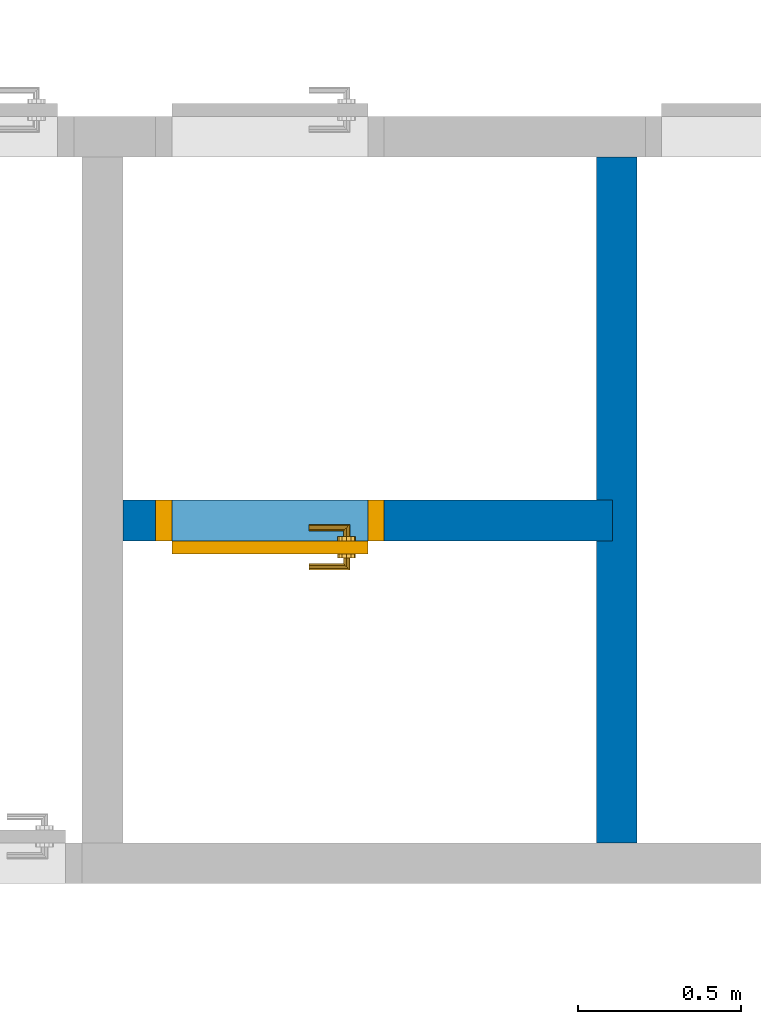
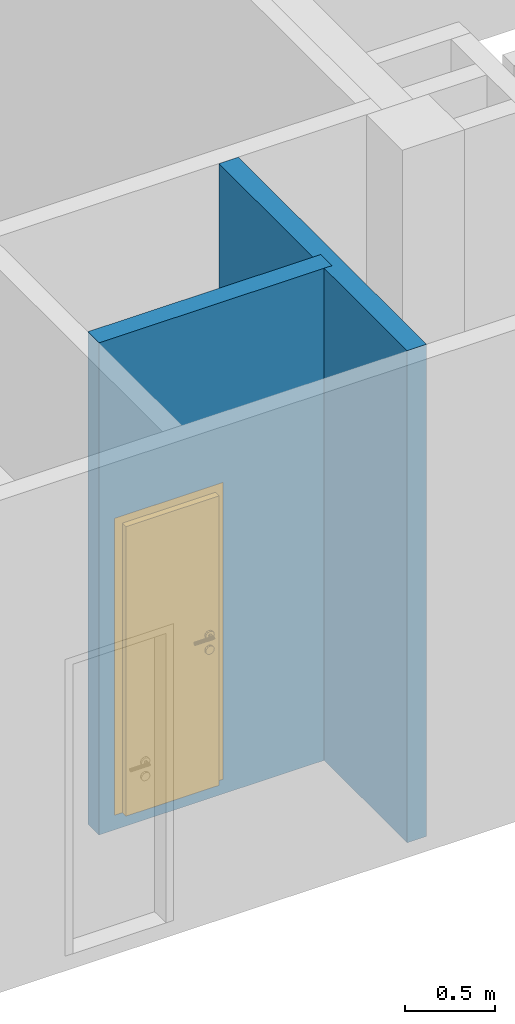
# One storey, part 15 of 37: 2 walls, 1 door, 1 opening.
"""IFC4 building model written with IfcOpenShell, lengths in metres."""

from ifc_helpers import new_model, entity, si_unit, converted_unit, derived_unit, frame, frame_2d, origin, origin_with_axes, place, context, subcontext, project, spatial, polyline, rectangle, outline, extrude, closed_shell, open_shell, surface_model, source, transform, mapped, material, layer, layer_set, layer_usage, type_object, element, fill, save


model = new_model("IFC4")

# Units and contexts
model_context = context("Model", 3, precision=1e-05, world=origin())
body_context = subcontext(model_context, "Body", "Model", "MODEL_VIEW")
ifc_project = project(units=[si_unit("LENGTHUNIT", "METRE"), si_unit("AREAUNIT", "SQUARE_METRE"), si_unit("VOLUMEUNIT", "CUBIC_METRE"), si_unit("MASSUNIT", "GRAM", prefix="KILO"), converted_unit("PLANEANGLEUNIT", "DEGREE", entity("IfcPlaneAngleMeasure", 0.0174532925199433), si_unit("PLANEANGLEUNIT", "RADIAN"), dimensions=[0, 0, 0, 0, 0, 0, 0]), derived_unit("THERMALTRANSMITTANCEUNIT", [(si_unit("POWERUNIT", "WATT"), 1), (si_unit("THERMODYNAMICTEMPERATUREUNIT", "KELVIN"), -1), (si_unit("LENGTHUNIT", "METRE"), -2)]), derived_unit("VOLUMETRICFLOWRATEUNIT", [(si_unit("LENGTHUNIT", "METRE"), 3), (converted_unit("TIMEUNIT", "hour", entity("IfcTimeMeasure", 3600.0), si_unit("TIMEUNIT", "SECOND"), dimensions=[0, 0, 1, 0, 0, 0, 0]), -1), (si_unit("LENGTHUNIT", "METRE"), -1)])], contexts=[model_context])

# Site, building, storey
site_placement = place(None, origin())
site = spatial("IfcSite", under=ifc_project, at=site_placement, Name="3. ASŘ", CompositionType="ELEMENT")
building_placement = place(site_placement, origin())
building = spatial("IfcBuilding", under=site, at=building_placement, Name="Pavilon B", CompositionType="ELEMENT")
storey_placement = place(building_placement, origin())
storey = spatial("IfcBuildingStorey", under=building, at=storey_placement, Name="Půdorys 1.NP", CompositionType="ELEMENT", Elevation=0.0)

# Wall, opening, door
ifc_material_1 = material(Name="ZDIVO Z CDm")
ifc_layer_1 = layer(ifc_material_1, 0.125)
ifc_layer_set_1 = layer_set([ifc_layer_1])
ifc_layer_usage_1 = layer_usage(ifc_layer_set_1, "AXIS2", "POSITIVE", 0.0)
wall_1_placement = place(storey_placement, frame((30.7, -22.45, -0.1), z_axis=(0.0, 0.0, 1.0), x_axis=(-1.0, 0.0, 0.0)))
wall_1 = element("IfcWall", 1, at=wall_1_placement, inside=storey, material=ifc_layer_usage_1, Name="ZDIVO Z CDm", context=body_context, shape_type="SweptSolid", body=[
    extrude(rectangle(XDim=1.5, YDim=0.125, at=frame_2d((0.75, 0.0625), x_axis=(1.0, 0.0))), origin_with_axes(), (0.0, 0.0, 1.0), 3.35),
])
opening_placement = place(wall_1_placement, frame((1.4, 0.125, 0.1), z_axis=(0.0, -1.0, 0.0), x_axis=(0.0, 0.0, 1.0)))
opening = element("IfcOpeningElement", 2, at=opening_placement, cuts=wall_1, Name="Dveřní otvor", ObjectType="Opening", context=body_context, shape_type="SweptSolid", body=[
    extrude(outline(polyline([(0.0, 0.7), (2.02, 0.7), (2.02, 0.0), (0.0, 0.0), (0.0, 0.7)])), origin_with_axes(), (0.0, 0.0, 1.0), 0.125),
])
door_type = type_object("IfcDoorType", Name="D101", OperationType="NOTDEFINED", ParameterTakesPrecedence=False, PredefinedType="DOOR")
shared_shape = source(origin_with_axes(), body_context, "Body", "SurfaceModel", [
    surface_model("IfcShellBasedSurfaceModel", [(0.0, 0.125, 2.02), (0.0, 0.125, -7.65404249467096e-18), (0.05, 0.125, -7.65404249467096e-18), (0.05, 0.125, 2.02), (0.0, 0.0, 7.65404249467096e-18), (0.0, 2.41584530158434e-16, 2.02), (0.05, 2.41584530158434e-16, 2.02), (0.05, 0.0, 7.65404249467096e-18)], [closed_shell([[[0, 1, 2, 3]], [[4, 5, 6, 7]], [[1, 0, 5, 4]], [[2, 1, 4, 7]], [[3, 2, 7, 6]], [[0, 3, 6, 5]]], orient=[[False], [False], [False], [False], [False], [False]])]),
    surface_model("IfcShellBasedSurfaceModel", [(0.65, 0.125, 2.02), (0.65, 0.125, -7.65404249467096e-18), (0.7, 0.125, -7.65404249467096e-18), (0.7, 0.125, 2.02), (0.65, 0.0, 7.65404249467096e-18), (0.65, 2.41584530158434e-16, 2.02), (0.7, 2.41584530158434e-16, 2.02), (0.7, 0.0, 7.65404249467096e-18)], [closed_shell([[[0, 1, 2, 3]], [[4, 5, 6, 7]], [[1, 0, 5, 4]], [[2, 1, 4, 7]], [[3, 2, 7, 6]], [[0, 3, 6, 5]]], orient=[[False], [False], [False], [False], [False], [False]])]),
    surface_model("IfcShellBasedSurfaceModel", [(0.05, 0.125, 2.02), (0.05, 0.125, 1.97), (0.65, 0.125, 1.97), (0.65, 0.125, 2.02), (0.05, 2.41584530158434e-16, 1.97), (0.05, 2.41584530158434e-16, 2.02), (0.65, 2.41584530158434e-16, 2.02), (0.65, 2.41584530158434e-16, 1.97)], [closed_shell([[[0, 1, 2, 3]], [[4, 5, 6, 7]], [[1, 0, 5, 4]], [[2, 1, 4, 7]], [[3, 2, 7, 6]], [[0, 3, 6, 5]]], orient=[[False], [False], [False], [False], [False], [False]])]),
    surface_model("IfcShellBasedSurfaceModel", [(0.05, 0.165, 1.97), (0.05, 0.165, -1.25526296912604e-17), (0.65, 0.165, -1.25526296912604e-17), (0.65, 0.165, 1.97), (0.05, 0.125, -7.65404249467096e-18), (0.05, 0.125, 1.97), (0.65, 0.125, 1.97), (0.65, 0.125, -7.65404249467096e-18)], [closed_shell([[[0, 1, 2, 3]], [[4, 5, 6, 7]], [[1, 0, 5, 4]], [[2, 1, 4, 7]], [[3, 2, 7, 6]], [[0, 3, 6, 5]]], orient=[[False], [False], [False], [False], [False], [False]])]),
    surface_model("IfcShellBasedSurfaceModel", [(0.608815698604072, 0.125, 0.93625), (0.6125, 0.125, 0.95), (0.608815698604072, 0.125, 0.96375), (0.59875, 0.125, 0.973815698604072), (0.585, 0.125, 0.9775), (0.57125, 0.125, 0.973815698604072), (0.561184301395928, 0.125, 0.96375), (0.5575, 0.125, 0.95), (0.561184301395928, 0.125, 0.93625), (0.57125, 0.125, 0.926184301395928), (0.585, 0.125, 0.9225), (0.59875, 0.125, 0.926184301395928), (0.6125, 0.1125, 0.95), (0.608815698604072, 0.1125, 0.93625), (0.59875, 0.1125, 0.926184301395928), (0.585, 0.1125, 0.9225), (0.57125, 0.1125, 0.926184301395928), (0.561184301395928, 0.1125, 0.93625), (0.5575, 0.1125, 0.95), (0.561184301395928, 0.1125, 0.96375), (0.57125, 0.1125, 0.973815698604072), (0.585, 0.1125, 0.9775), (0.59875, 0.1125, 0.973815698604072), (0.608815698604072, 0.1125, 0.96375)], [closed_shell([[[0, 1, 2, 3, 4, 5, 6, 7, 8, 9, 10, 11]], [[12, 13, 14, 15, 16, 17, 18, 19, 20, 21, 22, 23]], [[1, 0, 13, 12]], [[2, 1, 12, 23]], [[3, 2, 23, 22]], [[4, 3, 22, 21]], [[5, 4, 21, 20]], [[6, 5, 20, 19]], [[7, 6, 19, 18]], [[8, 7, 18, 17]], [[9, 8, 17, 16]], [[10, 9, 16, 15]], [[11, 10, 15, 14]], [[0, 11, 14, 13]]], orient=[[False], [False], [False], [False], [False], [False], [False], [False], [False], [False], [False], [False], [False], [False]])]),
    surface_model("IfcShellBasedSurfaceModel", [(0.608815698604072, 0.125, 1.03625), (0.6125, 0.125, 1.05), (0.608815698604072, 0.125, 1.06375), (0.59875, 0.125, 1.07381569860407), (0.585, 0.125, 1.0775), (0.57125, 0.125, 1.07381569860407), (0.561184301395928, 0.125, 1.06375), (0.5575, 0.125, 1.05), (0.561184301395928, 0.125, 1.03625), (0.57125, 0.125, 1.02618430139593), (0.585, 0.125, 1.0225), (0.59875, 0.125, 1.02618430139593), (0.6125, 0.1125, 1.05), (0.608815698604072, 0.1125, 1.03625), (0.59875, 0.1125, 1.02618430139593), (0.585, 0.1125, 1.0225), (0.57125, 0.1125, 1.02618430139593), (0.561184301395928, 0.1125, 1.03625), (0.5575, 0.1125, 1.05), (0.561184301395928, 0.1125, 1.06375), (0.57125, 0.1125, 1.07381569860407), (0.585, 0.1125, 1.0775), (0.59875, 0.1125, 1.07381569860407), (0.608815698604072, 0.1125, 1.06375)], [closed_shell([[[0, 1, 2, 3, 4, 5, 6, 7, 8, 9, 10, 11]], [[12, 13, 14, 15, 16, 17, 18, 19, 20, 21, 22, 23]], [[1, 0, 13, 12]], [[2, 1, 12, 23]], [[3, 2, 23, 22]], [[4, 3, 22, 21]], [[5, 4, 21, 20]], [[6, 5, 20, 19]], [[7, 6, 19, 18]], [[8, 7, 18, 17]], [[9, 8, 17, 16]], [[10, 9, 16, 15]], [[11, 10, 15, 14]], [[0, 11, 14, 13]]], orient=[[False], [False], [False], [False], [False], [False], [False], [False], [False], [False], [False], [False], [False], [False]])]),
    surface_model("IfcShellBasedSurfaceModel", [(0.585, 0.125, 1.06), (0.58, 0.125, 1.05866025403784), (0.576339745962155, 0.125, 1.055), (0.575, 0.125, 1.05), (0.576339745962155, 0.125, 1.045), (0.58, 0.125, 1.04133974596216), (0.585, 0.125, 1.04), (0.59, 0.125, 1.04133974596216), (0.593660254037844, 0.125, 1.045), (0.595, 0.125, 1.05), (0.593660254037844, 0.125, 1.055), (0.59, 0.125, 1.05866025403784), (0.59, 0.0800000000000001, 1.05866025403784), (0.585, 0.0850000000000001, 1.06), (0.593660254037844, 0.0763397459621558, 1.055), (0.595, 0.0750000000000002, 1.05), (0.593660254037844, 0.0763397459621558, 1.045), (0.59, 0.0800000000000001, 1.04133974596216), (0.585, 0.0850000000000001, 1.04), (0.58, 0.0900000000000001, 1.04133974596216), (0.576339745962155, 0.0936602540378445, 1.045), (0.575, 0.0950000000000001, 1.05), (0.576339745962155, 0.0936602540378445, 1.055), (0.58, 0.0900000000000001, 1.05866025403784), (0.47, 0.0800000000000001, 1.05866025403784), (0.47, 0.0850000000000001, 1.06), (0.47, 0.0763397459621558, 1.055), (0.47, 0.0750000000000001, 1.05), (0.47, 0.0763397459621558, 1.045), (0.47, 0.0800000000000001, 1.04133974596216), (0.47, 0.0850000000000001, 1.04), (0.47, 0.0900000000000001, 1.04133974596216), (0.47, 0.0936602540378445, 1.045), (0.47, 0.0950000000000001, 1.05), (0.47, 0.0936602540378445, 1.055), (0.47, 0.0900000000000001, 1.05866025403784)], [open_shell([[[0, 1, 2, 3, 4, 5, 6, 7, 8, 9, 10, 11]], [[0, 11, 12, 13]], [[11, 10, 14, 12]], [[10, 9, 15, 14]], [[9, 8, 16, 15]], [[8, 7, 17, 16]], [[7, 6, 18, 17]], [[6, 5, 19, 18]], [[5, 4, 20, 19]], [[4, 3, 21, 20]], [[3, 2, 22, 21]], [[2, 1, 23, 22]], [[1, 0, 13, 23]], [[13, 12, 24, 25]], [[12, 14, 26, 24]], [[14, 15, 27, 26]], [[15, 16, 28, 27]], [[16, 17, 29, 28]], [[17, 18, 30, 29]], [[18, 19, 31, 30]], [[19, 20, 32, 31]], [[20, 21, 33, 32]], [[21, 22, 34, 33]], [[22, 23, 35, 34]], [[23, 13, 25, 35]]], orient=[[False], [False], [False], [False], [False], [False], [False], [False], [False], [False], [False], [False], [False], [False], [False], [False], [False], [False], [False], [False], [False], [False], [False], [False], [False]])]),
    surface_model("IfcShellBasedSurfaceModel", [(0.608815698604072, 0.165, 0.93625), (0.59875, 0.165, 0.926184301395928), (0.585, 0.165, 0.9225), (0.57125, 0.165, 0.926184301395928), (0.561184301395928, 0.165, 0.93625), (0.5575, 0.165, 0.95), (0.561184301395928, 0.165, 0.96375), (0.57125, 0.165, 0.973815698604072), (0.585, 0.165, 0.9775), (0.59875, 0.165, 0.973815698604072), (0.608815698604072, 0.165, 0.96375), (0.6125, 0.165, 0.95), (0.6125, 0.1775, 0.95), (0.608815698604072, 0.1775, 0.96375), (0.59875, 0.1775, 0.973815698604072), (0.585, 0.1775, 0.9775), (0.57125, 0.1775, 0.973815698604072), (0.561184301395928, 0.1775, 0.96375), (0.5575, 0.1775, 0.95), (0.561184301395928, 0.1775, 0.93625), (0.57125, 0.1775, 0.926184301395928), (0.585, 0.1775, 0.9225), (0.59875, 0.1775, 0.926184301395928), (0.608815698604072, 0.1775, 0.93625)], [closed_shell([[[0, 1, 2, 3, 4, 5, 6, 7, 8, 9, 10, 11]], [[12, 13, 14, 15, 16, 17, 18, 19, 20, 21, 22, 23]], [[11, 12, 23, 0]], [[10, 13, 12, 11]], [[9, 14, 13, 10]], [[8, 15, 14, 9]], [[7, 16, 15, 8]], [[6, 17, 16, 7]], [[5, 18, 17, 6]], [[4, 19, 18, 5]], [[3, 20, 19, 4]], [[2, 21, 20, 3]], [[1, 22, 21, 2]], [[0, 23, 22, 1]]], orient=[[False], [False], [False], [False], [False], [False], [False], [False], [False], [False], [False], [False], [False], [False]])]),
    surface_model("IfcShellBasedSurfaceModel", [(0.608815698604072, 0.165, 1.03625), (0.59875, 0.165, 1.02618430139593), (0.585, 0.165, 1.0225), (0.57125, 0.165, 1.02618430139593), (0.561184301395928, 0.165, 1.03625), (0.5575, 0.165, 1.05), (0.561184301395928, 0.165, 1.06375), (0.57125, 0.165, 1.07381569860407), (0.585, 0.165, 1.0775), (0.59875, 0.165, 1.07381569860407), (0.608815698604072, 0.165, 1.06375), (0.6125, 0.165, 1.05), (0.6125, 0.1775, 1.05), (0.608815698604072, 0.1775, 1.06375), (0.59875, 0.1775, 1.07381569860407), (0.585, 0.1775, 1.0775), (0.57125, 0.1775, 1.07381569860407), (0.561184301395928, 0.1775, 1.06375), (0.5575, 0.1775, 1.05), (0.561184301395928, 0.1775, 1.03625), (0.57125, 0.1775, 1.02618430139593), (0.585, 0.1775, 1.0225), (0.59875, 0.1775, 1.02618430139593), (0.608815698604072, 0.1775, 1.03625)], [closed_shell([[[0, 1, 2, 3, 4, 5, 6, 7, 8, 9, 10, 11]], [[12, 13, 14, 15, 16, 17, 18, 19, 20, 21, 22, 23]], [[11, 12, 23, 0]], [[10, 13, 12, 11]], [[9, 14, 13, 10]], [[8, 15, 14, 9]], [[7, 16, 15, 8]], [[6, 17, 16, 7]], [[5, 18, 17, 6]], [[4, 19, 18, 5]], [[3, 20, 19, 4]], [[2, 21, 20, 3]], [[1, 22, 21, 2]], [[0, 23, 22, 1]]], orient=[[False], [False], [False], [False], [False], [False], [False], [False], [False], [False], [False], [False], [False], [False]])]),
    surface_model("IfcShellBasedSurfaceModel", [(0.585, 0.165, 1.06), (0.59, 0.165, 1.05866025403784), (0.593660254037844, 0.165, 1.055), (0.595, 0.165, 1.05), (0.593660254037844, 0.165, 1.045), (0.59, 0.165, 1.04133974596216), (0.585, 0.165, 1.04), (0.58, 0.165, 1.04133974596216), (0.576339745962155, 0.165, 1.045), (0.575, 0.165, 1.05), (0.576339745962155, 0.165, 1.055), (0.58, 0.165, 1.05866025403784), (0.585, 0.205, 1.06), (0.59, 0.21, 1.05866025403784), (0.593660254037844, 0.213660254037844, 1.055), (0.595, 0.215, 1.05), (0.593660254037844, 0.213660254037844, 1.045), (0.59, 0.21, 1.04133974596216), (0.585, 0.205, 1.04), (0.58, 0.2, 1.04133974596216), (0.576339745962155, 0.196339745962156, 1.045), (0.575, 0.195, 1.05), (0.576339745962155, 0.196339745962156, 1.055), (0.58, 0.2, 1.05866025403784), (0.47, 0.205, 1.06), (0.47, 0.21, 1.05866025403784), (0.47, 0.213660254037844, 1.055), (0.47, 0.215, 1.05), (0.47, 0.213660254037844, 1.045), (0.47, 0.21, 1.04133974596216), (0.47, 0.205, 1.04), (0.47, 0.2, 1.04133974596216), (0.47, 0.196339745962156, 1.045), (0.47, 0.195, 1.05), (0.47, 0.196339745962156, 1.055), (0.47, 0.2, 1.05866025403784)], [open_shell([[[0, 1, 2, 3, 4, 5, 6, 7, 8, 9, 10, 11]], [[0, 12, 13, 1]], [[1, 13, 14, 2]], [[2, 14, 15, 3]], [[3, 15, 16, 4]], [[4, 16, 17, 5]], [[5, 17, 18, 6]], [[6, 18, 19, 7]], [[7, 19, 20, 8]], [[8, 20, 21, 9]], [[9, 21, 22, 10]], [[10, 22, 23, 11]], [[11, 23, 12, 0]], [[12, 24, 25, 13]], [[13, 25, 26, 14]], [[14, 26, 27, 15]], [[15, 27, 28, 16]], [[16, 28, 29, 17]], [[17, 29, 30, 18]], [[18, 30, 31, 19]], [[19, 31, 32, 20]], [[20, 32, 33, 21]], [[21, 33, 34, 22]], [[22, 34, 35, 23]], [[23, 35, 24, 12]]], orient=[[False], [False], [False], [False], [False], [False], [False], [False], [False], [False], [False], [False], [False], [False], [False], [False], [False], [False], [False], [False], [False], [False], [False], [False], [False]])]),
])
door_placement = place(opening_placement, frame((0.0, 0.0, 0.125), z_axis=(1.0, 0.0, 0.0), x_axis=(0.0, 1.0, -1.22464679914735e-16)))
door = element("IfcDoor", 3, at=door_placement, inside=storey, type_object=door_type, Name="D101", OverallHeight=2.02, OverallWidth=0.7, context=body_context, shape_type="MappedRepresentation", body=[
    mapped(shared_shape, transform((0.0, 0.0, 0.0), x_axis=(1.0, 0.0, 0.0), y_axis=(0.0, -1.0, 0.0), z_axis=(0.0, 0.0, 1.0), scale=1.0)),
])
fill(opening, door)

# Wall
ifc_material_2 = material(Name="ZDIVO Z CDm")
ifc_layer_2 = layer(ifc_material_2, 0.125)
ifc_layer_set_2 = layer_set([ifc_layer_2])
ifc_layer_usage_2 = layer_usage(ifc_layer_set_2, "AXIS2", "POSITIVE", 0.0)
wall_2_placement = place(storey_placement, frame((30.65, -21.4, -0.1), z_axis=(0.0, 0.0, 1.0), x_axis=(0.0, -1.0, 0.0)))
element("IfcWall", 4, at=wall_2_placement, inside=storey, material=ifc_layer_usage_2, Name="ZDIVO Z CDm", context=body_context, shape_type="SweptSolid", body=[
    extrude(outline(polyline([(-2.09999999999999, 0.0), (-1.04999999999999, 0.0), (-1.04999999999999, 0.05), (-0.924999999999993, 0.05), (-0.924999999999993, 0.0), (0.0, 0.0), (0.0, 0.125), (-2.09999999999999, 0.125), (-2.09999999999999, 0.0)])), frame((2.09999999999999, 0.0, 0.0), z_axis=(0.0, 0.0, 1.0), x_axis=(1.0, 0.0, 0.0)), (0.0, 0.0, 1.0), 3.35),
])

save(model, "model.ifc")
